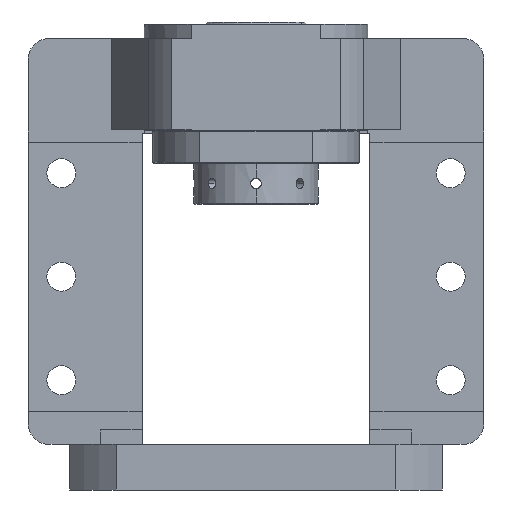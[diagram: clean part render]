
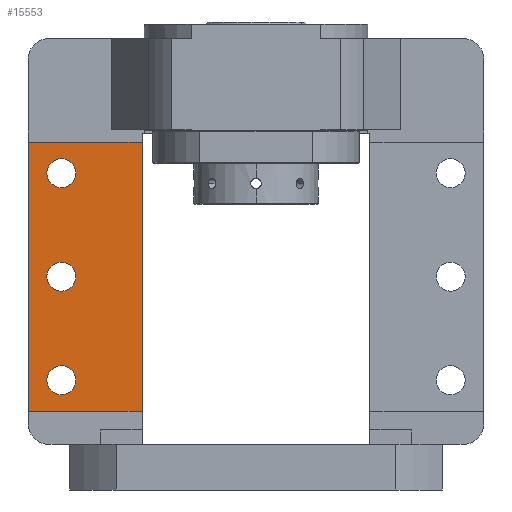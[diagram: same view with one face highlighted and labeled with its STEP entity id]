
A CAD part, front view. The second image highlights one B-rep face of the part: STEP entity #15553.
In plain terms, the highlighted planar face has unit normal (0, -1, 0).
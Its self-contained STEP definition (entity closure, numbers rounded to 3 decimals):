
#41 = VERTEX_POINT ( 'NONE', #10962 ) ;
#192 = CARTESIAN_POINT ( 'NONE',  ( -110., 0., 225. ) ) ;
#593 = EDGE_CURVE ( 'NONE', #16547, #20371, #17912, .T. ) ;
#697 = LINE ( 'NONE', #13395, #5660 ) ;
#869 = DIRECTION ( 'NONE',  ( 0., 0., -1. ) ) ;
#1163 = EDGE_LOOP ( 'NONE', ( #16778, #6499, #1656, #13240 ) ) ;
#1656 = ORIENTED_EDGE ( 'NONE', *, *, #12007, .F. ) ;
#1704 = ORIENTED_EDGE ( 'NONE', *, *, #16696, .T. ) ;
#1830 = EDGE_CURVE ( 'NONE', #2608, #8405, #11189, .T. ) ;
#1984 = CARTESIAN_POINT ( 'NONE',  ( -94., 0., 153. ) ) ;
#2382 = VERTEX_POINT ( 'NONE', #5500 ) ;
#2424 = CARTESIAN_POINT ( 'NONE',  ( -94., 0., 53. ) ) ;
#2583 = DIRECTION ( 'NONE',  ( 0., 1., 0. ) ) ;
#2608 = VERTEX_POINT ( 'NONE', #22010 ) ;
#2789 = CARTESIAN_POINT ( 'NONE',  ( -55., 0., 38. ) ) ;
#3126 = DIRECTION ( 'NONE',  ( 0., 1., 0. ) ) ;
#3233 = FACE_BOUND ( 'NONE', #8954, .T. ) ;
#3307 = DIRECTION ( 'NONE',  ( 0., 0., -1. ) ) ;
#3517 = AXIS2_PLACEMENT_3D ( 'NONE', #8964, #21974, #10811 ) ;
#3811 = FACE_BOUND ( 'NONE', #7788, .T. ) ;
#3946 = DIRECTION ( 'NONE',  ( 0., 1., 0. ) ) ;
#4215 = AXIS2_PLACEMENT_3D ( 'NONE', #23142, #11963, #869 ) ;
#4289 = DIRECTION ( 'NONE',  ( 0., 0., -1. ) ) ;
#4441 = LINE ( 'NONE', #18936, #23637 ) ;
#5308 = LINE ( 'NONE', #7206, #6470 ) ;
#5500 = CARTESIAN_POINT ( 'NONE',  ( -110., 0., 168. ) ) ;
#5660 = VECTOR ( 'NONE', #6047, 1000. ) ;
#5712 = CARTESIAN_POINT ( 'NONE',  ( -94., 0., 110. ) ) ;
#6047 = DIRECTION ( 'NONE',  ( -1., 0., 0. ) ) ;
#6300 = VECTOR ( 'NONE', #16143, 1000. ) ;
#6470 = VECTOR ( 'NONE', #16525, 1000. ) ;
#6499 = ORIENTED_EDGE ( 'NONE', *, *, #13245, .T. ) ;
#7206 = CARTESIAN_POINT ( 'NONE',  ( -110., 0., 168. ) ) ;
#7612 = PLANE ( 'NONE',  #23420 ) ;
#7788 = EDGE_LOOP ( 'NONE', ( #10135, #18252 ) ) ;
#7818 = DIRECTION ( 'NONE',  ( 0., 0., -1. ) ) ;
#8405 = VERTEX_POINT ( 'NONE', #2789 ) ;
#8443 = CARTESIAN_POINT ( 'NONE',  ( -94., 0., 160. ) ) ;
#8597 = CARTESIAN_POINT ( 'NONE',  ( -94., 0., 53. ) ) ;
#8822 = EDGE_LOOP ( 'NONE', ( #1704, #9832 ) ) ;
#8954 = EDGE_LOOP ( 'NONE', ( #12458, #14840 ) ) ;
#8964 = CARTESIAN_POINT ( 'NONE',  ( -94., 0., 153. ) ) ;
#9034 = VERTEX_POINT ( 'NONE', #12894 ) ;
#9442 = AXIS2_PLACEMENT_3D ( 'NONE', #13670, #2583, #15535 ) ;
#9832 = ORIENTED_EDGE ( 'NONE', *, *, #22567, .T. ) ;
#10135 = ORIENTED_EDGE ( 'NONE', *, *, #10373, .T. ) ;
#10373 = EDGE_CURVE ( 'NONE', #18841, #18000, #15815, .T. ) ;
#10459 = DIRECTION ( 'NONE',  ( 0., 0., -1. ) ) ;
#10793 = CARTESIAN_POINT ( 'NONE',  ( -94., 0., 96. ) ) ;
#10811 = DIRECTION ( 'NONE',  ( 0., 0., -1. ) ) ;
#10962 = CARTESIAN_POINT ( 'NONE',  ( -110., 0., 38. ) ) ;
#11073 = VERTEX_POINT ( 'NONE', #14552 ) ;
#11189 = LINE ( 'NONE', #18034, #6300 ) ;
#11963 = DIRECTION ( 'NONE',  ( 0., 1., 0. ) ) ;
#12007 = EDGE_CURVE ( 'NONE', #8405, #41, #697, .T. ) ;
#12093 = CIRCLE ( 'NONE', #4215, 7. ) ;
#12458 = ORIENTED_EDGE ( 'NONE', *, *, #593, .T. ) ;
#12894 = CARTESIAN_POINT ( 'NONE',  ( -94., 0., 60. ) ) ;
#13059 = FACE_BOUND ( 'NONE', #8822, .T. ) ;
#13240 = ORIENTED_EDGE ( 'NONE', *, *, #1830, .F. ) ;
#13245 = EDGE_CURVE ( 'NONE', #2382, #41, #4441, .T. ) ;
#13395 = CARTESIAN_POINT ( 'NONE',  ( -110., 0., 38. ) ) ;
#13670 = CARTESIAN_POINT ( 'NONE',  ( -94., 0., 103. ) ) ;
#13716 = EDGE_CURVE ( 'NONE', #2382, #2608, #5308, .T. ) ;
#14552 = CARTESIAN_POINT ( 'NONE',  ( -94., 0., 46. ) ) ;
#14840 = ORIENTED_EDGE ( 'NONE', *, *, #15220, .T. ) ;
#15220 = EDGE_CURVE ( 'NONE', #20371, #16547, #21552, .T. ) ;
#15379 = DIRECTION ( 'NONE',  ( 0., 1., 0. ) ) ;
#15535 = DIRECTION ( 'NONE',  ( 0., 0., -1. ) ) ;
#15553 = ADVANCED_FACE ( 'NONE', ( #3811, #13059, #3233, #22423 ), #7612, .F. ) ;
#15815 = CIRCLE ( 'NONE', #9442, 7. ) ;
#16143 = DIRECTION ( 'NONE',  ( 0., 0., -1. ) ) ;
#16525 = DIRECTION ( 'NONE',  ( 1., 0., 0. ) ) ;
#16547 = VERTEX_POINT ( 'NONE', #23158 ) ;
#16696 = EDGE_CURVE ( 'NONE', #11073, #9034, #18003, .T. ) ;
#16778 = ORIENTED_EDGE ( 'NONE', *, *, #13716, .F. ) ;
#16931 = DIRECTION ( 'NONE',  ( 0., 0., 1. ) ) ;
#17912 = CIRCLE ( 'NONE', #21570, 7. ) ;
#18000 = VERTEX_POINT ( 'NONE', #5712 ) ;
#18003 = CIRCLE ( 'NONE', #19997, 7. ) ;
#18034 = CARTESIAN_POINT ( 'NONE',  ( -55., 0., 225. ) ) ;
#18252 = ORIENTED_EDGE ( 'NONE', *, *, #19497, .T. ) ;
#18841 = VERTEX_POINT ( 'NONE', #10793 ) ;
#18936 = CARTESIAN_POINT ( 'NONE',  ( -110., 0., 225. ) ) ;
#19497 = EDGE_CURVE ( 'NONE', #18000, #18841, #12093, .T. ) ;
#19997 = AXIS2_PLACEMENT_3D ( 'NONE', #8597, #21618, #10459 ) ;
#20371 = VERTEX_POINT ( 'NONE', #8443 ) ;
#21552 = CIRCLE ( 'NONE', #3517, 7. ) ;
#21570 = AXIS2_PLACEMENT_3D ( 'NONE', #1984, #3126, #3307 ) ;
#21618 = DIRECTION ( 'NONE',  ( 0., 1., 0. ) ) ;
#21839 = AXIS2_PLACEMENT_3D ( 'NONE', #2424, #15379, #4289 ) ;
#21974 = DIRECTION ( 'NONE',  ( 0., 1., 0. ) ) ;
#22010 = CARTESIAN_POINT ( 'NONE',  ( -55., 0., 168. ) ) ;
#22423 = FACE_OUTER_BOUND ( 'NONE', #1163, .T. ) ;
#22567 = EDGE_CURVE ( 'NONE', #9034, #11073, #23871, .T. ) ;
#23142 = CARTESIAN_POINT ( 'NONE',  ( -94., 0., 103. ) ) ;
#23158 = CARTESIAN_POINT ( 'NONE',  ( -94., 0., 146. ) ) ;
#23420 = AXIS2_PLACEMENT_3D ( 'NONE', #192, #3946, #16931 ) ;
#23637 = VECTOR ( 'NONE', #7818, 1000. ) ;
#23871 = CIRCLE ( 'NONE', #21839, 7. ) ;
